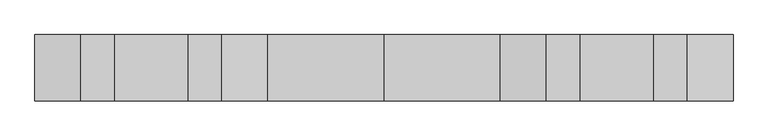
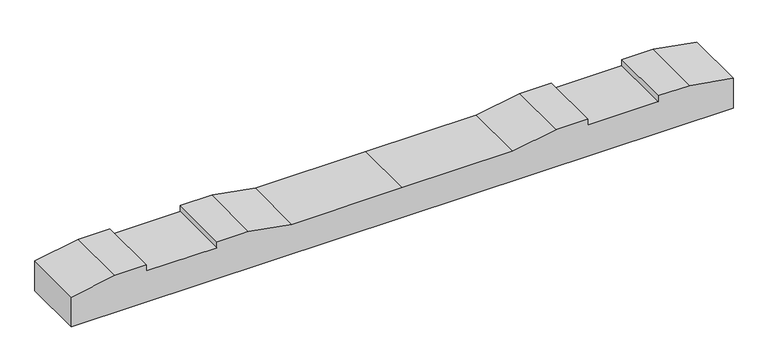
"""IFC4 building model written with IfcOpenShell, lengths in millimetres: proxy geometry, 轨枕-立面角度 : 轨枕-立面角度."""

from ifc_helpers import new_model, si_unit, frame, origin, place, context, project, spatial, polyline, outline, extrude, source, transform, mapped, element, save


def generic_models_36daaabd(model_context):
    return source(origin(), model_context, "Body", "SweptSolid", [
        extrude(outline(polyline([(0.0, 0.0), (2099.7669328, 0.0), (2099.7669328, -100.0206889), (1961.8834664, -124.5), (1861.8834664, -124.5), (1861.8834664, -104.5), (1637.8834664, -104.5), (1637.8834664, -124.5), (1537.8834664, -124.5), (1399.8834664, -100.0), (1049.8834664, -100.0), (699.8834664, -100.0), (561.8834664, -124.5), (461.8834664, -124.5), (461.8834664, -104.5), (237.8834664, -104.5), (237.8834664, -124.5), (137.8834664, -124.5), (0.0, -100.0206889), (0.0, 0.0)])), frame((-1049.8834664, -99.934362, -104.562772), z_axis=(0.0, 0.9999998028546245, 0.000627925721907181), x_axis=(1.0, 0.0, 0.0)), (0.0, 0.0, 1.0), 200.0),
    ])


if __name__ == "__main__":
    model = new_model("IFC4")
    model_context = context("Model", 3, world=origin())
    ifc_project = project(units=[si_unit("LENGTHUNIT", "METRE", prefix="MILLI")], contexts=[model_context])
    site = spatial("IfcSite", under=ifc_project)
    building = spatial("IfcBuilding", under=site)
    placement = place(None, origin())
    generic_models_shape = generic_models_36daaabd(model_context)
    element("IfcBuildingElementProxy", 1, Name="轨枕-立面角度 : 轨枕-立面角度", ObjectType="轨枕-立面角度 : 轨枕-立面角度", at=placement, inside=building, context=model_context, shape_type="MappedRepresentation", body=[
        mapped(generic_models_shape, transform((0.0, 0.0, 0.0), x_axis=(1.0, 0.0, 0.0), y_axis=(0.0, 1.0, 0.0), z_axis=(0.0, 0.0, 1.0))),
    ])
    save(model, "model.ifc")
